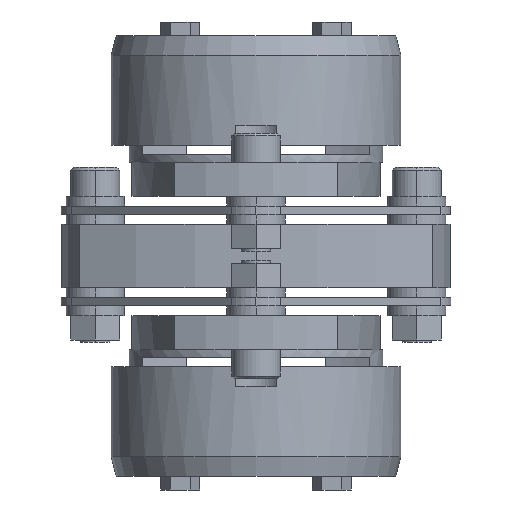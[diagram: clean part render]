
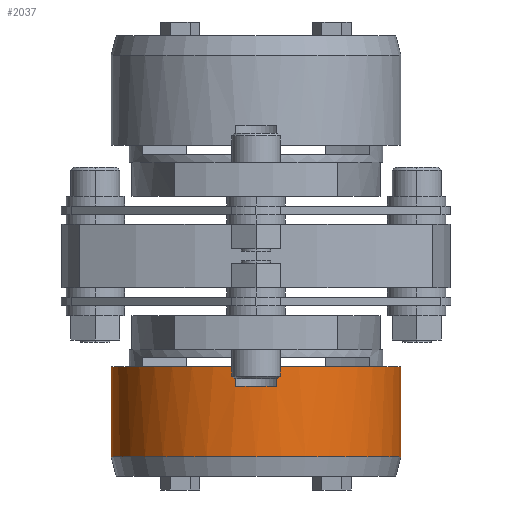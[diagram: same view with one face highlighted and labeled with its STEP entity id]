
A CAD part, left-side view. The second image highlights one B-rep face of the part: STEP entity #2037.
In plain terms, the highlighted cylindrical face has radius 29.75 mm (diameter 59.5 mm), a partial arc.
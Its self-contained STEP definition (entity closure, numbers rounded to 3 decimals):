
#1843=CARTESIAN_POINT('',(0.,29.75,-41.25));
#1844=VERTEX_POINT('',#1843);
#1860=CARTESIAN_POINT('',(0.,-29.75,-41.25));
#1861=VERTEX_POINT('',#1860);
#1868=CARTESIAN_POINT('',(0.,0.,-41.25));
#1869=DIRECTION('',(0.0,0.0,-1.0));
#1870=DIRECTION('',(0.,1.0,0.0));
#1871=AXIS2_PLACEMENT_3D('',#1868,#1869,#1870);
#1872=CIRCLE('',#1871,29.75);
#1873=EDGE_CURVE('',#1861,#1844,#1872,.T.);
#1972=CARTESIAN_POINT('',(0.,0.,-22.75));
#1973=DIRECTION('',(0.0,0.0,-1.0));
#1974=DIRECTION('',(0.,-1.0,0.0));
#1975=AXIS2_PLACEMENT_3D('',#1972,#1973,#1974);
#1976=CYLINDRICAL_SURFACE('',#1975,29.75);
#1977=CARTESIAN_POINT('',(0.,-29.75,-22.75));
#1978=VERTEX_POINT('',#1977);
#1979=CARTESIAN_POINT('',(0.,-29.75,-22.75));
#1980=DIRECTION('',(0.0,0.0,-1.0));
#1981=VECTOR('',#1980,18.5);
#1982=LINE('',#1979,#1981);
#1983=EDGE_CURVE('',#1978,#1861,#1982,.T.);
#1984=ORIENTED_EDGE('',*,*,#1983,.F.);
#1985=CARTESIAN_POINT('',(-29.452,-4.202,-22.75));
#1986=VERTEX_POINT('',#1985);
#1987=CARTESIAN_POINT('',(0.,0.,-22.75));
#1988=DIRECTION('',(0.0,0.0,-1.0));
#1989=DIRECTION('',(0.,-1.0,0.0));
#1990=AXIS2_PLACEMENT_3D('',#1987,#1988,#1989);
#1991=CIRCLE('',#1990,29.75);
#1992=EDGE_CURVE('',#1978,#1986,#1991,.T.);
#1993=ORIENTED_EDGE('',*,*,#1992,.T.);
#1994=CARTESIAN_POINT('',(-29.452,-4.202,-26.75));
#1995=VERTEX_POINT('',#1994);
#1996=CARTESIAN_POINT('',(-29.452,-4.202,-22.75));
#1997=DIRECTION('',(0.0,0.0,-1.0));
#1998=VECTOR('',#1997,4.0);
#1999=LINE('',#1996,#1998);
#2000=EDGE_CURVE('',#1986,#1995,#1999,.T.);
#2001=ORIENTED_EDGE('',*,*,#2000,.T.);
#2002=CARTESIAN_POINT('',(-29.452,4.202,-26.75));
#2003=VERTEX_POINT('',#2002);
#2004=CARTESIAN_POINT('',(0.,0.,-26.75));
#2005=DIRECTION('',(0.0,0.0,-1.0));
#2006=DIRECTION('',(0.,-1.0,0.0));
#2007=AXIS2_PLACEMENT_3D('',#2004,#2005,#2006);
#2008=CIRCLE('',#2007,29.75);
#2009=EDGE_CURVE('',#1995,#2003,#2008,.T.);
#2010=ORIENTED_EDGE('',*,*,#2009,.T.);
#2011=CARTESIAN_POINT('',(-29.452,4.202,-22.75));
#2012=VERTEX_POINT('',#2011);
#2013=CARTESIAN_POINT('',(-29.452,4.202,-26.75));
#2014=DIRECTION('',(0.0,0.0,1.0));
#2015=VECTOR('',#2014,4.0);
#2016=LINE('',#2013,#2015);
#2017=EDGE_CURVE('',#2003,#2012,#2016,.T.);
#2018=ORIENTED_EDGE('',*,*,#2017,.T.);
#2019=CARTESIAN_POINT('',(0.,29.75,-22.75));
#2020=VERTEX_POINT('',#2019);
#2021=CARTESIAN_POINT('',(0.,0.,-22.75));
#2022=DIRECTION('',(0.0,0.0,-1.0));
#2023=DIRECTION('',(0.,-1.0,0.0));
#2024=AXIS2_PLACEMENT_3D('',#2021,#2022,#2023);
#2025=CIRCLE('',#2024,29.75);
#2026=EDGE_CURVE('',#2012,#2020,#2025,.T.);
#2027=ORIENTED_EDGE('',*,*,#2026,.T.);
#2028=CARTESIAN_POINT('',(0.,29.75,-41.25));
#2029=DIRECTION('',(0.0,0.0,1.0));
#2030=VECTOR('',#2029,18.5);
#2031=LINE('',#2028,#2030);
#2032=EDGE_CURVE('',#1844,#2020,#2031,.T.);
#2033=ORIENTED_EDGE('',*,*,#2032,.F.);
#2034=ORIENTED_EDGE('',*,*,#1873,.F.);
#2035=EDGE_LOOP('',(#1984,#1993,#2001,#2010,#2018,#2027,#2033,#2034));
#2036=FACE_OUTER_BOUND('',#2035,.T.);
#2037=ADVANCED_FACE('',(#2036),#1976,.T.);
